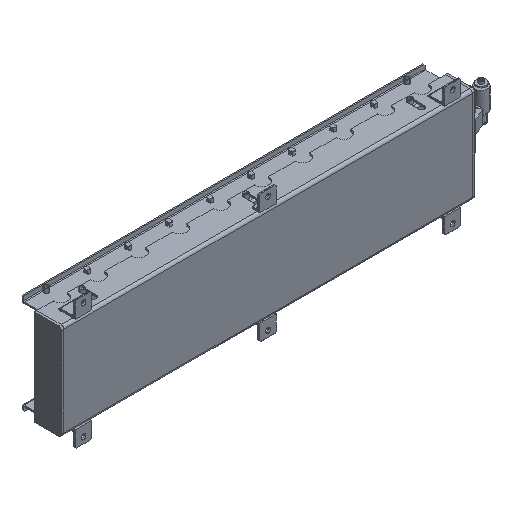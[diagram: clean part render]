
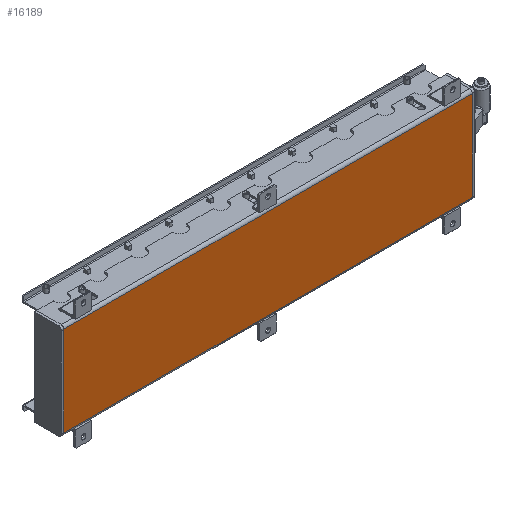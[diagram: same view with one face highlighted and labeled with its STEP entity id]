
A CAD part, isometric view. The second image highlights one B-rep face of the part: STEP entity #16189.
In plain terms, the highlighted planar face has unit normal (0, -1, 0).
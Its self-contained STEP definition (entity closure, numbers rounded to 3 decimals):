
#1978 = ORIENTED_EDGE ( 'NONE', *, *, #9564, .F. ) ;
#2334 = LINE ( 'NONE', #13973, #19072 ) ;
#2996 = VERTEX_POINT ( 'NONE', #7571 ) ;
#3371 = EDGE_CURVE ( 'NONE', #4153, #13226, #13790, .T. ) ;
#3959 = DIRECTION ( 'NONE',  ( 0., 0., -1. ) ) ;
#4153 = VERTEX_POINT ( 'NONE', #8197 ) ;
#4592 = PLANE ( 'NONE',  #13911 ) ;
#4669 = DIRECTION ( 'NONE',  ( 0., 1., 0. ) ) ;
#6041 = CARTESIAN_POINT ( 'NONE',  ( 996., -33., -109.7 ) ) ;
#6860 = FACE_OUTER_BOUND ( 'NONE', #20135, .T. ) ;
#7119 = CARTESIAN_POINT ( 'NONE',  ( 996., -33., 116.5 ) ) ;
#7165 = ORIENTED_EDGE ( 'NONE', *, *, #15728, .T. ) ;
#7406 = LINE ( 'NONE', #19649, #20217 ) ;
#7571 = CARTESIAN_POINT ( 'NONE',  ( 0., -33., 109.7 ) ) ;
#8139 = CARTESIAN_POINT ( 'NONE',  ( 996., -33., -109.7 ) ) ;
#8197 = CARTESIAN_POINT ( 'NONE',  ( 0., -33., -109.7 ) ) ;
#8792 = DIRECTION ( 'NONE',  ( 0., 0., -1. ) ) ;
#9074 = VERTEX_POINT ( 'NONE', #18724 ) ;
#9564 = EDGE_CURVE ( 'NONE', #9074, #13226, #15677, .T. ) ;
#9643 = CARTESIAN_POINT ( 'NONE',  ( 996., -33., 116.5 ) ) ;
#11269 = VECTOR ( 'NONE', #8792, 1000. ) ;
#12313 = ORIENTED_EDGE ( 'NONE', *, *, #20040, .T. ) ;
#13226 = VERTEX_POINT ( 'NONE', #6041 ) ;
#13790 = LINE ( 'NONE', #8139, #18238 ) ;
#13911 = AXIS2_PLACEMENT_3D ( 'NONE', #9643, #4669, #16347 ) ;
#13973 = CARTESIAN_POINT ( 'NONE',  ( 0., -33., 116.5 ) ) ;
#15677 = LINE ( 'NONE', #7119, #11269 ) ;
#15728 = EDGE_CURVE ( 'NONE', #9074, #2996, #7406, .T. ) ;
#16050 = ORIENTED_EDGE ( 'NONE', *, *, #3371, .T. ) ;
#16189 = ADVANCED_FACE ( 'NONE', ( #6860 ), #4592, .F. ) ;
#16321 = DIRECTION ( 'NONE',  ( -1., 0., 0. ) ) ;
#16347 = DIRECTION ( 'NONE',  ( 0., 0., 1. ) ) ;
#18138 = DIRECTION ( 'NONE',  ( 1., 0., 0. ) ) ;
#18238 = VECTOR ( 'NONE', #18138, 1000. ) ;
#18724 = CARTESIAN_POINT ( 'NONE',  ( 996., -33., 109.7 ) ) ;
#19072 = VECTOR ( 'NONE', #3959, 1000. ) ;
#19649 = CARTESIAN_POINT ( 'NONE',  ( 996., -33., 109.7 ) ) ;
#20040 = EDGE_CURVE ( 'NONE', #2996, #4153, #2334, .T. ) ;
#20135 = EDGE_LOOP ( 'NONE', ( #12313, #16050, #1978, #7165 ) ) ;
#20217 = VECTOR ( 'NONE', #16321, 1000. ) ;
